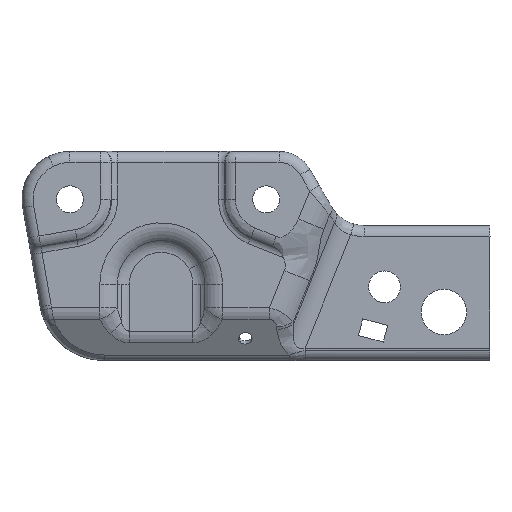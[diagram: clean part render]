
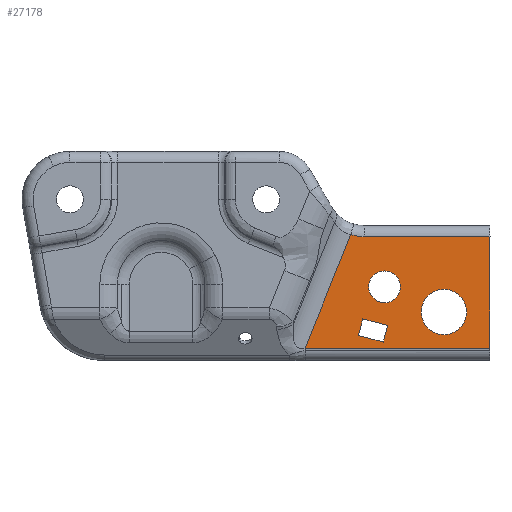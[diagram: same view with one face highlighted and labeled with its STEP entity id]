
A CAD part, front view. The second image highlights one B-rep face of the part: STEP entity #27178.
In plain terms, the highlighted planar face has unit normal (0.001, -1, 0).
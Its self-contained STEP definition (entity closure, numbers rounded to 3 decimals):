
#7395=VECTOR('Line Direction',#7394,1.) ;
#21123=VECTOR('Line Direction',#21122,1.) ;
#21168=VECTOR('Line Direction',#21167,1.) ;
#21194=VECTOR('Line Direction',#21193,1.) ;
#21221=VECTOR('Line Direction',#21220,1.) ;
#21927=VECTOR('Line Direction',#21926,1.) ;
#23706=VECTOR('Line Direction',#23705,1.) ;
#24037=VECTOR('Line Direction',#24036,1.) ;
#7394=DIRECTION('Vector Direction',(-1.,-0.001,0.)) ;
#7418=DIRECTION('Axis2P3D Direction',(0.001,-1.,0.)) ;
#21122=DIRECTION('Vector Direction',(0.967,0.001,-0.256)) ;
#21167=DIRECTION('Vector Direction',(0.256,0.,0.967)) ;
#21193=DIRECTION('Vector Direction',(-0.967,-0.001,0.256)) ;
#21220=DIRECTION('Vector Direction',(-0.256,0.,-0.967)) ;
#21237=DIRECTION('Axis2P3D Direction',(0.001,-1.,0.)) ;
#21311=DIRECTION('Axis2P3D Direction',(0.001,-1.,0.)) ;
#21347=DIRECTION('Axis2P3D Direction',(0.001,-1.,0.)) ;
#21926=DIRECTION('Vector Direction',(0.373,0.,0.928)) ;
#23705=DIRECTION('Vector Direction',(0.,0.,-1.)) ;
#24036=DIRECTION('Vector Direction',(1.,0.001,0.)) ;
#27137=DIRECTION('Axis2P3D Direction',(-0.001,1.,0.)) ;
#27138=DIRECTION('Axis2P3D XDirection',(0.,0.,-1.)) ;
#27149=DIRECTION('Axis2P3D Direction',(-0.001,1.,0.)) ;
#27158=DIRECTION('Axis2P3D Direction',(-0.001,1.,0.)) ;
#7359=CARTESIAN_POINT('Vertex',(771.274,-912.317,379.918)) ;
#7390=CARTESIAN_POINT('Vertex',(776.789,-912.313,379.143)) ;
#7393=CARTESIAN_POINT('Line Origine',(790.347,-912.302,379.143)) ;
#7397=CARTESIAN_POINT('Vertex',(828.021,-912.274,379.141)) ;
#7417=CARTESIAN_POINT('Axis2P3D Location',(776.789,-912.313,399.143)) ;
#21116=CARTESIAN_POINT('Vertex',(774.385,-912.315,338.859)) ;
#21121=CARTESIAN_POINT('Line Origine',(779.46,-912.311,337.512)) ;
#21125=CARTESIAN_POINT('Vertex',(784.534,-912.307,336.166)) ;
#21163=CARTESIAN_POINT('Vertex',(776.18,-912.313,345.624)) ;
#21166=CARTESIAN_POINT('Line Origine',(775.283,-912.314,342.242)) ;
#21187=CARTESIAN_POINT('Vertex',(786.329,-912.306,342.931)) ;
#21192=CARTESIAN_POINT('Line Origine',(781.255,-912.309,344.278)) ;
#21219=CARTESIAN_POINT('Line Origine',(785.432,-912.306,339.549)) ;
#21236=CARTESIAN_POINT('Axis2P3D Location',(785.021,-912.307,358.666)) ;
#21240=CARTESIAN_POINT('Vertex',(785.021,-912.307,352.166)) ;
#21242=CARTESIAN_POINT('Vertex',(791.521,-912.302,358.666)) ;
#21287=CARTESIAN_POINT('Vertex',(778.521,-912.312,358.666)) ;
#21291=CARTESIAN_POINT('Control Point',(778.521,-912.312,358.666)) ;
#21292=CARTESIAN_POINT('Control Point',(778.521,-912.312,356.624)) ;
#21293=CARTESIAN_POINT('Control Point',(779.32,-912.311,354.58)) ;
#21294=CARTESIAN_POINT('Control Point',(780.935,-912.31,352.966)) ;
#21295=CARTESIAN_POINT('Control Point',(782.979,-912.308,352.166)) ;
#21296=CARTESIAN_POINT('Control Point',(785.021,-912.307,352.166)) ;
#21310=CARTESIAN_POINT('Axis2P3D Location',(785.021,-912.307,358.666)) ;
#21314=CARTESIAN_POINT('Vertex',(785.021,-912.307,365.166)) ;
#21346=CARTESIAN_POINT('Axis2P3D Location',(785.021,-912.307,358.666)) ;
#21925=CARTESIAN_POINT('Line Origine',(763.08,-912.323,359.546)) ;
#21929=CARTESIAN_POINT('Vertex',(752.672,-912.331,333.667)) ;
#23696=CARTESIAN_POINT('Vertex',(828.02,-912.274,333.665)) ;
#23704=CARTESIAN_POINT('Line Origine',(828.021,-912.274,356.403)) ;
#24035=CARTESIAN_POINT('Line Origine',(736.733,-912.344,333.668)) ;
#27136=CARTESIAN_POINT('Axis2P3D Location',(1172.861,-912.009,351.816)) ;
#27148=CARTESIAN_POINT('Axis2P3D Location',(809.22,-912.288,348.42)) ;
#27152=CARTESIAN_POINT('Vertex',(799.97,-912.295,348.42)) ;
#27154=CARTESIAN_POINT('Vertex',(818.47,-912.281,348.42)) ;
#27157=CARTESIAN_POINT('Axis2P3D Location',(809.22,-912.288,348.42)) ;
#7419=AXIS2_PLACEMENT_3D('Circle Axis2P3D',#7417,#7418,$) ;
#21238=AXIS2_PLACEMENT_3D('Circle Axis2P3D',#21236,#21237,$) ;
#21312=AXIS2_PLACEMENT_3D('Circle Axis2P3D',#21310,#21311,$) ;
#21348=AXIS2_PLACEMENT_3D('Circle Axis2P3D',#21346,#21347,$) ;
#27139=AXIS2_PLACEMENT_3D('Plane Axis2P3D',#27136,#27137,#27138) ;
#27150=AXIS2_PLACEMENT_3D('Circle Axis2P3D',#27148,#27149,$) ;
#27159=AXIS2_PLACEMENT_3D('Circle Axis2P3D',#27157,#27158,$) ;
#27165=FACE_BOUND('',#27162,.T.) ;
#27171=FACE_BOUND('',#27166,.T.) ;
#27177=FACE_BOUND('',#27172,.T.) ;
#7399=EDGE_CURVE('',#7391,#7398,#7396,.F.) ;
#7421=EDGE_CURVE('',#7360,#7391,#7420,.T.) ;
#21127=EDGE_CURVE('',#21117,#21126,#21124,.T.) ;
#21170=EDGE_CURVE('',#21117,#21164,#21169,.T.) ;
#21196=EDGE_CURVE('',#21188,#21164,#21195,.T.) ;
#21223=EDGE_CURVE('',#21188,#21126,#21222,.T.) ;
#21244=EDGE_CURVE('',#21241,#21243,#21239,.T.) ;
#21297=EDGE_CURVE('',#21288,#21241,#21290,.T.) ;
#21316=EDGE_CURVE('',#21288,#21315,#21313,.F.) ;
#21350=EDGE_CURVE('',#21315,#21243,#21349,.F.) ;
#21931=EDGE_CURVE('',#21930,#7360,#21928,.T.) ;
#23708=EDGE_CURVE('',#7398,#23697,#23707,.T.) ;
#24039=EDGE_CURVE('',#23697,#21930,#24038,.F.) ;
#27156=EDGE_CURVE('',#27153,#27155,#27151,.F.) ;
#27161=EDGE_CURVE('',#27155,#27153,#27160,.F.) ;
#27140=PLANE('Plane',#27139) ;
#27142=ORIENTED_EDGE('',*,*,#7421,.F.) ;
#27143=ORIENTED_EDGE('',*,*,#21931,.F.) ;
#27144=ORIENTED_EDGE('',*,*,#24039,.F.) ;
#27145=ORIENTED_EDGE('',*,*,#23708,.F.) ;
#27146=ORIENTED_EDGE('',*,*,#7399,.F.) ;
#27163=ORIENTED_EDGE('',*,*,#27156,.F.) ;
#27164=ORIENTED_EDGE('',*,*,#27161,.F.) ;
#27167=ORIENTED_EDGE('',*,*,#21297,.F.) ;
#27168=ORIENTED_EDGE('',*,*,#21316,.T.) ;
#27169=ORIENTED_EDGE('',*,*,#21350,.T.) ;
#27170=ORIENTED_EDGE('',*,*,#21244,.F.) ;
#27173=ORIENTED_EDGE('',*,*,#21196,.F.) ;
#27174=ORIENTED_EDGE('',*,*,#21223,.T.) ;
#27175=ORIENTED_EDGE('',*,*,#21127,.F.) ;
#27176=ORIENTED_EDGE('',*,*,#21170,.T.) ;
#7396=LINE('Line',#7393,#7395) ;
#21124=LINE('Line',#21121,#21123) ;
#21169=LINE('Line',#21166,#21168) ;
#21195=LINE('Line',#21192,#21194) ;
#21222=LINE('Line',#21219,#21221) ;
#21928=LINE('Line',#21925,#21927) ;
#23707=LINE('Line',#23704,#23706) ;
#24038=LINE('Line',#24035,#24037) ;
#27178=ADVANCED_FACE('\X2\96F64EF651E04F554F53\X0\',(#27147,#27165,#27171,#27177),#27140,.F.) ;
#7420=CIRCLE('generated circle',#7419,20.) ;
#21239=CIRCLE('generated circle',#21238,6.5) ;
#21313=CIRCLE('generated circle',#21312,6.5) ;
#21349=CIRCLE('generated circle',#21348,6.5) ;
#27151=CIRCLE('generated circle',#27150,9.25) ;
#27160=CIRCLE('generated circle',#27159,9.25) ;
#7360=VERTEX_POINT('',#7359) ;
#7391=VERTEX_POINT('',#7390) ;
#7398=VERTEX_POINT('',#7397) ;
#21117=VERTEX_POINT('',#21116) ;
#21126=VERTEX_POINT('',#21125) ;
#21164=VERTEX_POINT('',#21163) ;
#21188=VERTEX_POINT('',#21187) ;
#21241=VERTEX_POINT('',#21240) ;
#21243=VERTEX_POINT('',#21242) ;
#21288=VERTEX_POINT('',#21287) ;
#21315=VERTEX_POINT('',#21314) ;
#21930=VERTEX_POINT('',#21929) ;
#23697=VERTEX_POINT('',#23696) ;
#27153=VERTEX_POINT('',#27152) ;
#27155=VERTEX_POINT('',#27154) ;
#21290=B_SPLINE_CURVE_WITH_KNOTS('',5,(#21291,#21292,#21293,#21294,#21295,#21296),.UNSPECIFIED.,.F.,.U.,(6,6),(-5.105,5.105),.UNSPECIFIED.) ;
#27141=EDGE_LOOP('',(#27142,#27143,#27144,#27145,#27146)) ;
#27162=EDGE_LOOP('',(#27163,#27164)) ;
#27166=EDGE_LOOP('',(#27167,#27168,#27169,#27170)) ;
#27172=EDGE_LOOP('',(#27173,#27174,#27175,#27176)) ;
#27147=FACE_OUTER_BOUND('',#27141,.T.) ;
